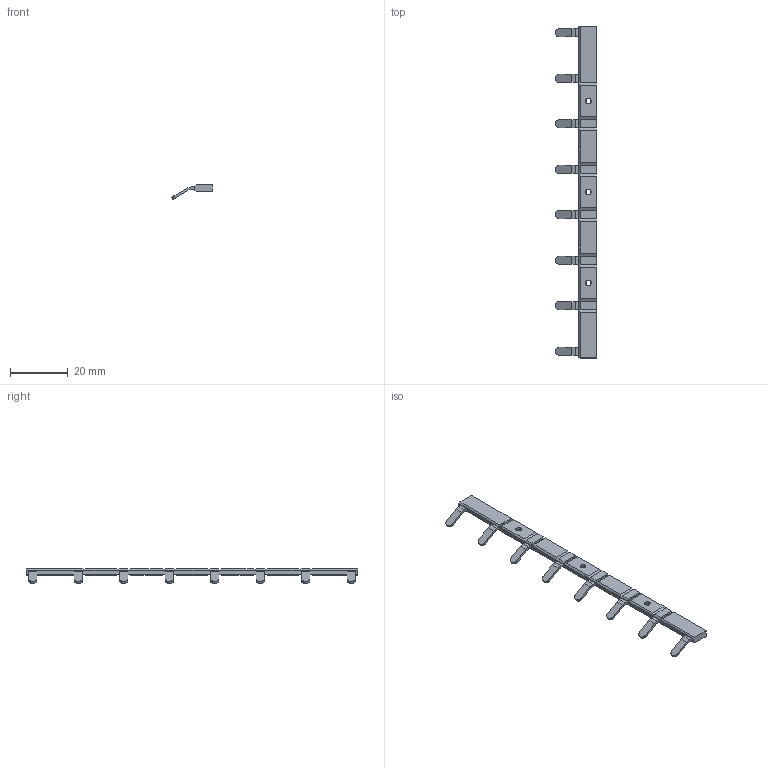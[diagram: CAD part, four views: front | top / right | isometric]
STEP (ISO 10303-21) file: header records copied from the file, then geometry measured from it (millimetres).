
FILE_DESCRIPTION (( 'STEP AP203' ), '1' );
FILE_NAME ('SR08B 连接桥.STEP', '2019-06-12T04:28:52', ( 'shenler' ), ( 'Microsoft' ), 'SwSTEP 2.0', 'SolidWorks 2017', '' );
FILE_SCHEMA (( 'CONFIG_CONTROL_DESIGN' ));
Length unit declared in the file: millimetre
Products named in the file (1): SR08B 蟀諉Э
Bounding box: 14.25 x 115.4 x 5.16 mm (x, y, z)
Volume: 1754.3 mm3; surface area: 2531.5 mm2
Topology: 1 solids, 1 shells, 200 faces, 552 edges, 368 vertices
Faces by surface type: plane 150, cylinder 50
Entity records: 6425 total; most frequent: CARTESIAN_POINT 1121, ORIENTED_EDGE 1104, DIRECTION 1054, EDGE_CURVE 552, VECTOR 452, LINE 452, VERTEX_POINT 368, AXIS2_PLACEMENT_3D 301
